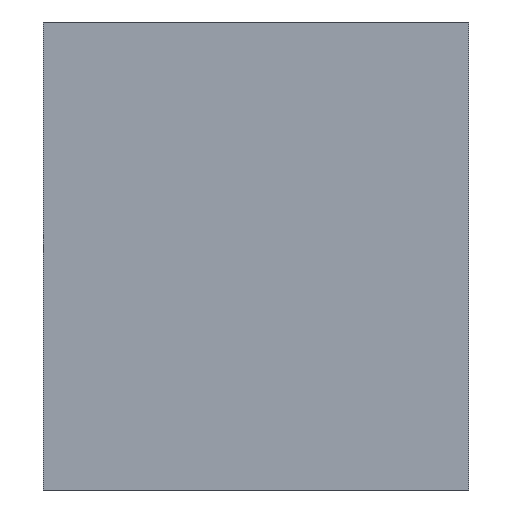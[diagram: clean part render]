
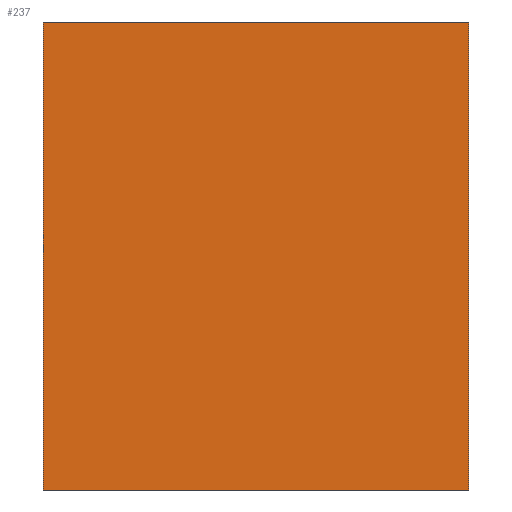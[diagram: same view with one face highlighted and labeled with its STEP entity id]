
A CAD part, front view. The second image highlights one B-rep face of the part: STEP entity #237.
In plain terms, the highlighted planar face has unit normal (0, -1, 0).
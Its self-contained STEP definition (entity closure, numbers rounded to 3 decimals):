
#21 = EDGE_CURVE('',#22,#24,#26,.T.);
#22 = VERTEX_POINT('',#23);
#23 = CARTESIAN_POINT('',(10.,-62.,-22.));
#24 = VERTEX_POINT('',#25);
#25 = CARTESIAN_POINT('',(10.,-62.,22.));
#26 = SURFACE_CURVE('',#27,(#31,#43),.PCURVE_S1.);
#27 = LINE('',#28,#29);
#28 = CARTESIAN_POINT('',(10.,-62.,-22.));
#29 = VECTOR('',#30,1.);
#30 = DIRECTION('',(0.,0.,1.));
#31 = PCURVE('',#32,#37);
#32 = PLANE('',#33);
#33 = AXIS2_PLACEMENT_3D('',#34,#35,#36);
#34 = CARTESIAN_POINT('',(10.,-62.,-22.));
#35 = DIRECTION('',(1.,0.,0.));
#36 = DIRECTION('',(0.,0.,1.));
#37 = DEFINITIONAL_REPRESENTATION('',(#38),#42);
#38 = LINE('',#39,#40);
#39 = CARTESIAN_POINT('',(0.,0.));
#40 = VECTOR('',#41,1.);
#41 = DIRECTION('',(1.,0.));
#42 = ( GEOMETRIC_REPRESENTATION_CONTEXT(2) 
PARAMETRIC_REPRESENTATION_CONTEXT() REPRESENTATION_CONTEXT('2D SPACE',''
  ) );
#43 = PCURVE('',#44,#49);
#44 = PLANE('',#45);
#45 = AXIS2_PLACEMENT_3D('',#46,#47,#48);
#46 = CARTESIAN_POINT('',(10.,-62.,-22.));
#47 = DIRECTION('',(0.,1.,0.));
#48 = DIRECTION('',(0.,0.,1.));
#49 = DEFINITIONAL_REPRESENTATION('',(#50),#54);
#50 = LINE('',#51,#52);
#51 = CARTESIAN_POINT('',(0.,0.));
#52 = VECTOR('',#53,1.);
#53 = DIRECTION('',(1.,0.));
#54 = ( GEOMETRIC_REPRESENTATION_CONTEXT(2) 
PARAMETRIC_REPRESENTATION_CONTEXT() REPRESENTATION_CONTEXT('2D SPACE',''
  ) );
#72 = PLANE('',#73);
#73 = AXIS2_PLACEMENT_3D('',#74,#75,#76);
#74 = CARTESIAN_POINT('',(10.,-62.,-22.));
#75 = DIRECTION('',(0.,0.,1.));
#76 = DIRECTION('',(1.,0.,0.));
#126 = PLANE('',#127);
#127 = AXIS2_PLACEMENT_3D('',#128,#129,#130);
#128 = CARTESIAN_POINT('',(10.,-62.,22.));
#129 = DIRECTION('',(0.,0.,1.));
#130 = DIRECTION('',(1.,0.,0.));
#141 = EDGE_CURVE('',#142,#144,#146,.T.);
#142 = VERTEX_POINT('',#143);
#143 = CARTESIAN_POINT('',(50.,-62.,-22.));
#144 = VERTEX_POINT('',#145);
#145 = CARTESIAN_POINT('',(50.,-62.,22.));
#146 = SURFACE_CURVE('',#147,(#151,#163),.PCURVE_S1.);
#147 = LINE('',#148,#149);
#148 = CARTESIAN_POINT('',(50.,-62.,-22.));
#149 = VECTOR('',#150,1.);
#150 = DIRECTION('',(0.,0.,1.));
#151 = PCURVE('',#152,#157);
#152 = PLANE('',#153);
#153 = AXIS2_PLACEMENT_3D('',#154,#155,#156);
#154 = CARTESIAN_POINT('',(50.,-62.,-22.));
#155 = DIRECTION('',(1.,0.,0.));
#156 = DIRECTION('',(0.,0.,1.));
#157 = DEFINITIONAL_REPRESENTATION('',(#158),#162);
#158 = LINE('',#159,#160);
#159 = CARTESIAN_POINT('',(0.,0.));
#160 = VECTOR('',#161,1.);
#161 = DIRECTION('',(1.,0.));
#162 = ( GEOMETRIC_REPRESENTATION_CONTEXT(2) 
PARAMETRIC_REPRESENTATION_CONTEXT() REPRESENTATION_CONTEXT('2D SPACE',''
  ) );
#163 = PCURVE('',#44,#164);
#164 = DEFINITIONAL_REPRESENTATION('',(#165),#169);
#165 = LINE('',#166,#167);
#166 = CARTESIAN_POINT('',(0.,40.));
#167 = VECTOR('',#168,1.);
#168 = DIRECTION('',(1.,0.));
#169 = ( GEOMETRIC_REPRESENTATION_CONTEXT(2) 
PARAMETRIC_REPRESENTATION_CONTEXT() REPRESENTATION_CONTEXT('2D SPACE',''
  ) );
#237 = ADVANCED_FACE('',(#238),#44,.F.);
#238 = FACE_BOUND('',#239,.F.);
#239 = EDGE_LOOP('',(#240,#261,#262,#283));
#240 = ORIENTED_EDGE('',*,*,#241,.F.);
#241 = EDGE_CURVE('',#22,#142,#242,.T.);
#242 = SURFACE_CURVE('',#243,(#247,#254),.PCURVE_S1.);
#243 = LINE('',#244,#245);
#244 = CARTESIAN_POINT('',(10.,-62.,-22.));
#245 = VECTOR('',#246,1.);
#246 = DIRECTION('',(1.,0.,0.));
#247 = PCURVE('',#44,#248);
#248 = DEFINITIONAL_REPRESENTATION('',(#249),#253);
#249 = LINE('',#250,#251);
#250 = CARTESIAN_POINT('',(0.,0.));
#251 = VECTOR('',#252,1.);
#252 = DIRECTION('',(0.,1.));
#253 = ( GEOMETRIC_REPRESENTATION_CONTEXT(2) 
PARAMETRIC_REPRESENTATION_CONTEXT() REPRESENTATION_CONTEXT('2D SPACE',''
  ) );
#254 = PCURVE('',#72,#255);
#255 = DEFINITIONAL_REPRESENTATION('',(#256),#260);
#256 = LINE('',#257,#258);
#257 = CARTESIAN_POINT('',(0.,0.));
#258 = VECTOR('',#259,1.);
#259 = DIRECTION('',(1.,0.));
#260 = ( GEOMETRIC_REPRESENTATION_CONTEXT(2) 
PARAMETRIC_REPRESENTATION_CONTEXT() REPRESENTATION_CONTEXT('2D SPACE',''
  ) );
#261 = ORIENTED_EDGE('',*,*,#21,.T.);
#262 = ORIENTED_EDGE('',*,*,#263,.T.);
#263 = EDGE_CURVE('',#24,#144,#264,.T.);
#264 = SURFACE_CURVE('',#265,(#269,#276),.PCURVE_S1.);
#265 = LINE('',#266,#267);
#266 = CARTESIAN_POINT('',(10.,-62.,22.));
#267 = VECTOR('',#268,1.);
#268 = DIRECTION('',(1.,0.,0.));
#269 = PCURVE('',#44,#270);
#270 = DEFINITIONAL_REPRESENTATION('',(#271),#275);
#271 = LINE('',#272,#273);
#272 = CARTESIAN_POINT('',(44.,0.));
#273 = VECTOR('',#274,1.);
#274 = DIRECTION('',(0.,1.));
#275 = ( GEOMETRIC_REPRESENTATION_CONTEXT(2) 
PARAMETRIC_REPRESENTATION_CONTEXT() REPRESENTATION_CONTEXT('2D SPACE',''
  ) );
#276 = PCURVE('',#126,#277);
#277 = DEFINITIONAL_REPRESENTATION('',(#278),#282);
#278 = LINE('',#279,#280);
#279 = CARTESIAN_POINT('',(0.,0.));
#280 = VECTOR('',#281,1.);
#281 = DIRECTION('',(1.,0.));
#282 = ( GEOMETRIC_REPRESENTATION_CONTEXT(2) 
PARAMETRIC_REPRESENTATION_CONTEXT() REPRESENTATION_CONTEXT('2D SPACE',''
  ) );
#283 = ORIENTED_EDGE('',*,*,#141,.F.);
